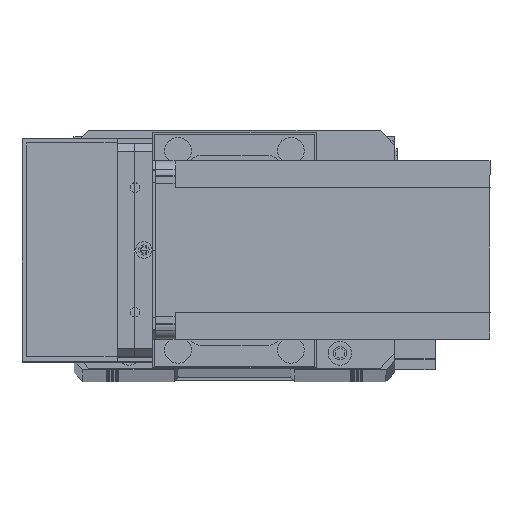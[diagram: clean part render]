
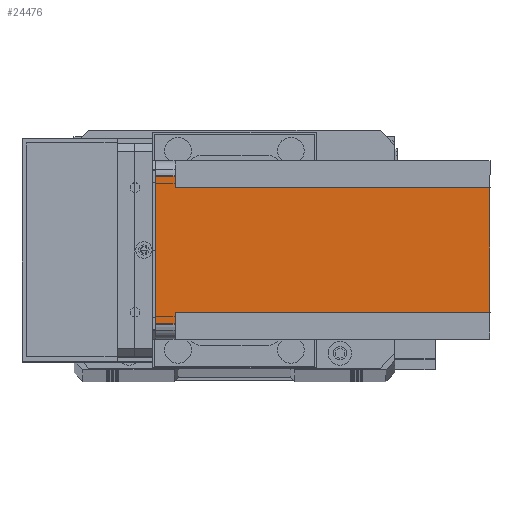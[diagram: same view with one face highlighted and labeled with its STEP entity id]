
A CAD part, top view. The second image highlights one B-rep face of the part: STEP entity #24476.
In plain terms, the highlighted planar face has unit normal (0, 0, 1) as drawn and (1, 0, 0) by its records, which use the part's own axes.
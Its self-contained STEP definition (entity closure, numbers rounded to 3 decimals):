
#113 = DIRECTION ( 'NONE',  ( 0., 1., 0. ) ) ;
#175 = DIRECTION ( 'NONE',  ( 0., 0., -1. ) ) ;
#1075 = CARTESIAN_POINT ( 'NONE',  ( 60., 0., -6.5 ) ) ;
#1551 = EDGE_CURVE ( 'NONE', #19304, #14056, #7438, .T. ) ;
#2021 = EDGE_CURVE ( 'NONE', #3281, #8712, #20393, .T. ) ;
#3015 = CARTESIAN_POINT ( 'NONE',  ( 60., 5., -6.5 ) ) ;
#3281 = VERTEX_POINT ( 'NONE', #6915 ) ;
#3319 = VECTOR ( 'NONE', #25532, 1000. ) ;
#3944 = DIRECTION ( 'NONE',  ( 1., 0., 0. ) ) ;
#4075 = LINE ( 'NONE', #9919, #10179 ) ;
#4596 = VECTOR ( 'NONE', #24101, 1000. ) ;
#4837 = DIRECTION ( 'NONE',  ( 0., 0., 1. ) ) ;
#5363 = EDGE_LOOP ( 'NONE', ( #17935, #19079, #22752, #8217, #12566, #5997, #20235, #15159 ) ) ;
#5991 = EDGE_CURVE ( 'NONE', #16061, #7308, #12492, .T. ) ;
#5997 = ORIENTED_EDGE ( 'NONE', *, *, #23426, .F. ) ;
#6448 = PLANE ( 'NONE',  #30472 ) ;
#6915 = CARTESIAN_POINT ( 'NONE',  ( 60., 55., -6.5 ) ) ;
#7308 = VERTEX_POINT ( 'NONE', #3015 ) ;
#7437 = CARTESIAN_POINT ( 'NONE',  ( 60., 55., -112.5 ) ) ;
#7438 = LINE ( 'NONE', #10386, #14345 ) ;
#8217 = ORIENTED_EDGE ( 'NONE', *, *, #26075, .T. ) ;
#8420 = LINE ( 'NONE', #18214, #21418 ) ;
#8669 = CARTESIAN_POINT ( 'NONE',  ( 60., 9., -6.5 ) ) ;
#8712 = VERTEX_POINT ( 'NONE', #11993 ) ;
#9394 = LINE ( 'NONE', #7437, #3319 ) ;
#9503 = LINE ( 'NONE', #10576, #21660 ) ;
#9919 = CARTESIAN_POINT ( 'NONE',  ( 60., 9., -112.5 ) ) ;
#10179 = VECTOR ( 'NONE', #4837, 1000. ) ;
#10317 = DIRECTION ( 'NONE',  ( 0., 1., 0. ) ) ;
#10386 = CARTESIAN_POINT ( 'NONE',  ( 60., 0., -112.5 ) ) ;
#10576 = CARTESIAN_POINT ( 'NONE',  ( 60., 51., -112.5 ) ) ;
#11475 = LINE ( 'NONE', #31743, #4596 ) ;
#11993 = CARTESIAN_POINT ( 'NONE',  ( 60., 51., -6.5 ) ) ;
#12492 = LINE ( 'NONE', #1075, #26181 ) ;
#12566 = ORIENTED_EDGE ( 'NONE', *, *, #5991, .F. ) ;
#13758 = EDGE_CURVE ( 'NONE', #3281, #32949, #9394, .T. ) ;
#14056 = VERTEX_POINT ( 'NONE', #31693 ) ;
#14345 = VECTOR ( 'NONE', #10317, 1000. ) ;
#14379 = CARTESIAN_POINT ( 'NONE',  ( 60., 9., -112.5 ) ) ;
#15159 = ORIENTED_EDGE ( 'NONE', *, *, #18496, .F. ) ;
#15992 = VERTEX_POINT ( 'NONE', #16289 ) ;
#16061 = VERTEX_POINT ( 'NONE', #8669 ) ;
#16289 = CARTESIAN_POINT ( 'NONE',  ( 60., 5., 0. ) ) ;
#16587 = DIRECTION ( 'NONE',  ( 0., -1., 0. ) ) ;
#17935 = ORIENTED_EDGE ( 'NONE', *, *, #2021, .F. ) ;
#18214 = CARTESIAN_POINT ( 'NONE',  ( 60., 0., 0. ) ) ;
#18496 = EDGE_CURVE ( 'NONE', #8712, #14056, #9503, .T. ) ;
#19079 = ORIENTED_EDGE ( 'NONE', *, *, #13758, .T. ) ;
#19304 = VERTEX_POINT ( 'NONE', #14379 ) ;
#20235 = ORIENTED_EDGE ( 'NONE', *, *, #1551, .T. ) ;
#20393 = LINE ( 'NONE', #29458, #33273 ) ;
#21418 = VECTOR ( 'NONE', #113, 1000. ) ;
#21660 = VECTOR ( 'NONE', #175, 1000. ) ;
#22067 = DIRECTION ( 'NONE',  ( 0., 1., 0. ) ) ;
#22752 = ORIENTED_EDGE ( 'NONE', *, *, #24792, .F. ) ;
#23426 = EDGE_CURVE ( 'NONE', #19304, #16061, #4075, .T. ) ;
#24101 = DIRECTION ( 'NONE',  ( 0., 0., -1. ) ) ;
#24476 = ADVANCED_FACE ( 'NONE', ( #32695 ), #6448, .T. ) ;
#24792 = EDGE_CURVE ( 'NONE', #15992, #32949, #8420, .T. ) ;
#25532 = DIRECTION ( 'NONE',  ( 0., 0., 1. ) ) ;
#26075 = EDGE_CURVE ( 'NONE', #15992, #7308, #11475, .T. ) ;
#26181 = VECTOR ( 'NONE', #16587, 1000. ) ;
#26410 = CARTESIAN_POINT ( 'NONE',  ( 60., 55., 0. ) ) ;
#29351 = DIRECTION ( 'NONE',  ( 0., -1., 0. ) ) ;
#29458 = CARTESIAN_POINT ( 'NONE',  ( 60., 60., -6.5 ) ) ;
#29696 = CARTESIAN_POINT ( 'NONE',  ( 60., 0., -112.5 ) ) ;
#30472 = AXIS2_PLACEMENT_3D ( 'NONE', #29696, #3944, #22067 ) ;
#31693 = CARTESIAN_POINT ( 'NONE',  ( 60., 51., -112.5 ) ) ;
#31743 = CARTESIAN_POINT ( 'NONE',  ( 60., 5., -112.5 ) ) ;
#32695 = FACE_OUTER_BOUND ( 'NONE', #5363, .T. ) ;
#32949 = VERTEX_POINT ( 'NONE', #26410 ) ;
#33273 = VECTOR ( 'NONE', #29351, 1000. ) ;
